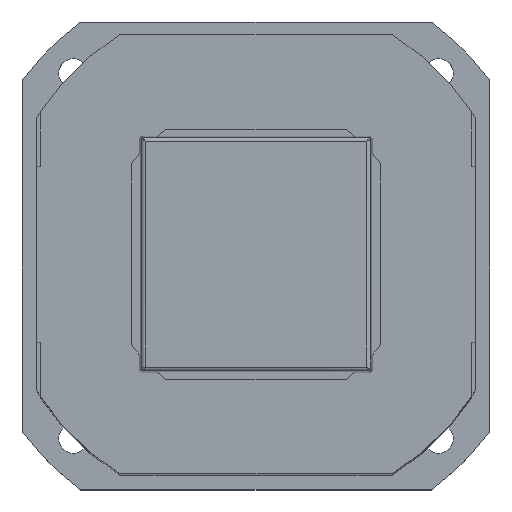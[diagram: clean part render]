
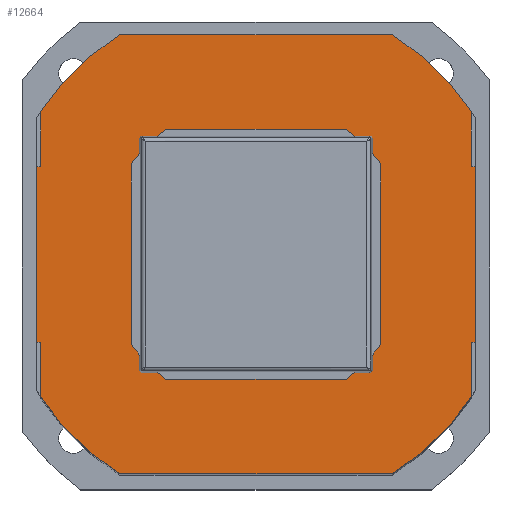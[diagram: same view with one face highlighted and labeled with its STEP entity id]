
A CAD part, top view. The second image highlights one B-rep face of the part: STEP entity #12664.
In plain terms, the highlighted planar face has unit normal (0, 0, 1).
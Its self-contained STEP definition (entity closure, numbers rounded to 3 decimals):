
#3602=CIRCLE('',#13983,132.5);
#3603=CIRCLE('',#13984,132.5);
#3604=CIRCLE('',#13985,132.5);
#3605=CIRCLE('',#13986,132.5);
#4329=VERTEX_POINT('',#17835);
#4330=VERTEX_POINT('',#17836);
#4331=VERTEX_POINT('',#17838);
#4332=VERTEX_POINT('',#17840);
#4333=VERTEX_POINT('',#17842);
#4334=VERTEX_POINT('',#17844);
#4335=VERTEX_POINT('',#17846);
#4336=VERTEX_POINT('',#17848);
#4337=VERTEX_POINT('',#17850);
#4338=VERTEX_POINT('',#17852);
#4339=VERTEX_POINT('',#17854);
#4340=VERTEX_POINT('',#17856);
#4341=VERTEX_POINT('',#17858);
#4342=VERTEX_POINT('',#17860);
#4343=VERTEX_POINT('',#17862);
#4344=VERTEX_POINT('',#17864);
#5430=LINE('',#17834,#15283);
#5431=LINE('',#17839,#15284);
#5432=LINE('',#17841,#15285);
#5433=LINE('',#17843,#15286);
#5434=LINE('',#17845,#15287);
#5435=LINE('',#17847,#15288);
#5436=LINE('',#17851,#15289);
#5437=LINE('',#17855,#15290);
#5438=LINE('',#17857,#15291);
#5439=LINE('',#17859,#15292);
#5440=LINE('',#17861,#15293);
#5441=LINE('',#17863,#15294);
#6449=EDGE_CURVE('',#4329,#4330,#5430,.T.);
#6450=EDGE_CURVE('',#4331,#4329,#3602,.T.);
#6451=EDGE_CURVE('',#4332,#4331,#5431,.T.);
#6452=EDGE_CURVE('',#4333,#4332,#5432,.T.);
#6453=EDGE_CURVE('',#4334,#4333,#5433,.T.);
#6454=EDGE_CURVE('',#4335,#4334,#5434,.T.);
#6455=EDGE_CURVE('',#4336,#4335,#5435,.T.);
#6456=EDGE_CURVE('',#4337,#4336,#3603,.T.);
#6457=EDGE_CURVE('',#4338,#4337,#5436,.T.);
#6458=EDGE_CURVE('',#4339,#4338,#3604,.T.);
#6459=EDGE_CURVE('',#4340,#4339,#5437,.T.);
#6460=EDGE_CURVE('',#4341,#4340,#5438,.T.);
#6461=EDGE_CURVE('',#4342,#4341,#5439,.T.);
#6462=EDGE_CURVE('',#4343,#4342,#5440,.T.);
#6463=EDGE_CURVE('',#4344,#4343,#5441,.T.);
#6464=EDGE_CURVE('',#4330,#4344,#3605,.T.);
#8464=ORIENTED_EDGE('',*,*,#6449,.F.);
#8465=ORIENTED_EDGE('',*,*,#6450,.F.);
#8466=ORIENTED_EDGE('',*,*,#6451,.F.);
#8467=ORIENTED_EDGE('',*,*,#6452,.F.);
#8468=ORIENTED_EDGE('',*,*,#6453,.F.);
#8469=ORIENTED_EDGE('',*,*,#6454,.F.);
#8470=ORIENTED_EDGE('',*,*,#6455,.F.);
#8471=ORIENTED_EDGE('',*,*,#6456,.F.);
#8472=ORIENTED_EDGE('',*,*,#6457,.F.);
#8473=ORIENTED_EDGE('',*,*,#6458,.F.);
#8474=ORIENTED_EDGE('',*,*,#6459,.F.);
#8475=ORIENTED_EDGE('',*,*,#6460,.F.);
#8476=ORIENTED_EDGE('',*,*,#6461,.F.);
#8477=ORIENTED_EDGE('',*,*,#6462,.F.);
#8478=ORIENTED_EDGE('',*,*,#6463,.F.);
#8479=ORIENTED_EDGE('',*,*,#6464,.F.);
#10980=EDGE_LOOP('',(#8464,#8465,#8466,#8467,#8468,#8469,#8470,#8471,#8472,
#8473,#8474,#8475,#8476,#8477,#8478,#8479));
#11858=FACE_BOUND('',#10980,.T.);
#12664=ADVANCED_FACE('',(#11858),#16007,.T.);
#13982=AXIS2_PLACEMENT_3D('',#17833,#23924,$);
#13983=AXIS2_PLACEMENT_3D('',#17837,#23926,#23927);
#13984=AXIS2_PLACEMENT_3D('',#17849,#23933,#23934);
#13985=AXIS2_PLACEMENT_3D('',#17853,#23936,#23937);
#13986=AXIS2_PLACEMENT_3D('',#17865,#23943,#23944);
#15283=VECTOR('',#23925,1.);
#15284=VECTOR('',#23928,1.);
#15285=VECTOR('',#23929,1.);
#15286=VECTOR('',#23930,1.);
#15287=VECTOR('',#23931,1.);
#15288=VECTOR('',#23932,1.);
#15289=VECTOR('',#23935,1.);
#15290=VECTOR('',#23938,1.);
#15291=VECTOR('',#23939,1.);
#15292=VECTOR('',#23940,1.);
#15293=VECTOR('',#23941,1.);
#15294=VECTOR('',#23942,1.);
#16007=PLANE('',#13982);
#17833=CARTESIAN_POINT('',(0.,0.,57.));
#17834=CARTESIAN_POINT('',(-70.,-112.5,57.));
#17835=CARTESIAN_POINT('',(70.,-112.5,57.));
#17836=CARTESIAN_POINT('',(-70.,-112.5,57.));
#17837=CARTESIAN_POINT('',(0.,0.,57.));
#17838=CARTESIAN_POINT('',(110.5,-73.116,57.));
#17839=CARTESIAN_POINT('',(110.5,-73.116,57.));
#17840=CARTESIAN_POINT('',(110.5,-45.,57.));
#17841=CARTESIAN_POINT('',(110.5,-45.,57.));
#17842=CARTESIAN_POINT('',(112.5,-45.,57.));
#17843=CARTESIAN_POINT('',(112.5,-45.,57.));
#17844=CARTESIAN_POINT('',(112.5,45.,57.));
#17845=CARTESIAN_POINT('',(112.5,45.,57.));
#17846=CARTESIAN_POINT('',(110.5,45.,57.));
#17847=CARTESIAN_POINT('',(110.5,45.,57.));
#17848=CARTESIAN_POINT('',(110.5,73.116,57.));
#17849=CARTESIAN_POINT('',(0.,0.,57.));
#17850=CARTESIAN_POINT('',(70.,112.5,57.));
#17851=CARTESIAN_POINT('',(70.,112.5,57.));
#17852=CARTESIAN_POINT('',(-70.,112.5,57.));
#17853=CARTESIAN_POINT('',(0.,0.,57.));
#17854=CARTESIAN_POINT('',(-110.5,73.116,57.));
#17855=CARTESIAN_POINT('',(-110.5,73.116,57.));
#17856=CARTESIAN_POINT('',(-110.5,45.,57.));
#17857=CARTESIAN_POINT('',(-110.5,45.,57.));
#17858=CARTESIAN_POINT('',(-112.5,45.,57.));
#17859=CARTESIAN_POINT('',(-112.5,45.,57.));
#17860=CARTESIAN_POINT('',(-112.5,-45.,57.));
#17861=CARTESIAN_POINT('',(-112.5,-45.,57.));
#17862=CARTESIAN_POINT('',(-110.5,-45.,57.));
#17863=CARTESIAN_POINT('',(-110.5,-45.,57.));
#17864=CARTESIAN_POINT('',(-110.5,-73.116,57.));
#17865=CARTESIAN_POINT('',(0.,0.,57.));
#23924=DIRECTION('',(0.,0.,1.));
#23925=DIRECTION('',(-1.,0.,0.));
#23926=DIRECTION('',(0.,0.,-1.));
#23927=DIRECTION('',(132.5,0.,0.));
#23928=DIRECTION('',(0.,-1.,0.));
#23929=DIRECTION('',(-1.,0.,0.));
#23930=DIRECTION('',(0.,-1.,0.));
#23931=DIRECTION('',(1.,0.,0.));
#23932=DIRECTION('',(0.,-1.,0.));
#23933=DIRECTION('',(0.,0.,-1.));
#23934=DIRECTION('',(132.5,0.,0.));
#23935=DIRECTION('',(1.,0.,0.));
#23936=DIRECTION('',(0.,0.,-1.));
#23937=DIRECTION('',(132.5,0.,0.));
#23938=DIRECTION('',(0.,1.,0.));
#23939=DIRECTION('',(1.,0.,0.));
#23940=DIRECTION('',(0.,1.,0.));
#23941=DIRECTION('',(-1.,0.,0.));
#23942=DIRECTION('',(0.,1.,0.));
#23943=DIRECTION('',(0.,0.,-1.));
#23944=DIRECTION('',(132.5,0.,0.));
